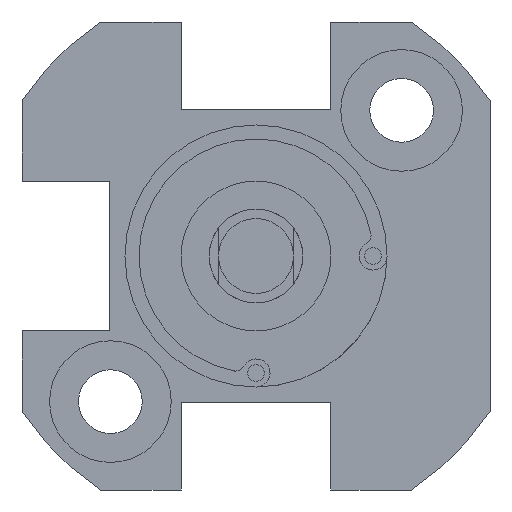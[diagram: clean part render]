
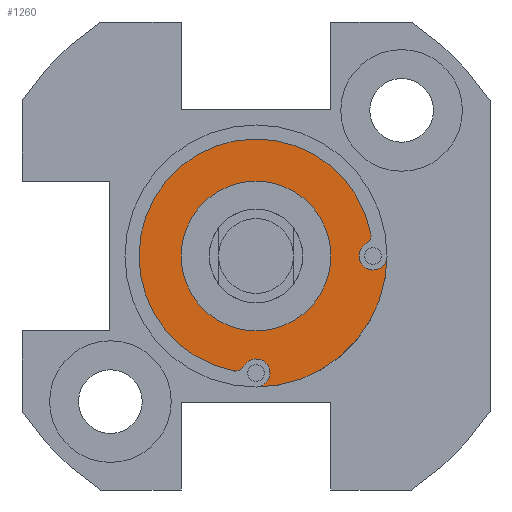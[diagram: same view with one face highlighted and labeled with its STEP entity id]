
A CAD part, front view. The second image highlights one B-rep face of the part: STEP entity #1260.
In plain terms, the highlighted planar face has unit normal (0, -1, 0).
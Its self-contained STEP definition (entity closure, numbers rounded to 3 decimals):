
#1 = CIRCLE ( 'NONE', #3276, 6.25 ) ;
#15 = VERTEX_POINT ( 'NONE', #921 ) ;
#25 = VERTEX_POINT ( 'NONE', #2179 ) ;
#27 = CARTESIAN_POINT ( 'NONE',  ( 0., -45., 4. ) ) ;
#65 = CIRCLE ( 'NONE', #2496, 0.5 ) ;
#206 = EDGE_CURVE ( 'NONE', #3112, #1467, #3271, .T. ) ;
#218 = ORIENTED_EDGE ( 'NONE', *, *, #3043, .T. ) ;
#232 = DIRECTION ( 'NONE',  ( 0., -1., 0. ) ) ;
#245 = CARTESIAN_POINT ( 'NONE',  ( 0., -45., 0. ) ) ;
#396 = CIRCLE ( 'NONE', #1677, 0.5 ) ;
#438 = EDGE_CURVE ( 'NONE', #2299, #25, #396, .T. ) ;
#440 = EDGE_LOOP ( 'NONE', ( #1538, #880, #3000, #1621, #218, #610, #2851, #734 ) ) ;
#610 = ORIENTED_EDGE ( 'NONE', *, *, #438, .T. ) ;
#711 = DIRECTION ( 'NONE',  ( 0., 1., 0. ) ) ;
#718 = DIRECTION ( 'NONE',  ( 0., 1., 0. ) ) ;
#734 = ORIENTED_EDGE ( 'NONE', *, *, #1679, .F. ) ;
#762 = FACE_OUTER_BOUND ( 'NONE', #440, .T. ) ;
#775 = CARTESIAN_POINT ( 'NONE',  ( 6.25, -45., 0. ) ) ;
#790 = AXIS2_PLACEMENT_3D ( 'NONE', #1250, #1765, #3243 ) ;
#861 = DIRECTION ( 'NONE',  ( 0., 0., -1. ) ) ;
#873 = FACE_BOUND ( 'NONE', #2510, .T. ) ;
#880 = ORIENTED_EDGE ( 'NONE', *, *, #2301, .T. ) ;
#903 = AXIS2_PLACEMENT_3D ( 'NONE', #1637, #3172, #2387 ) ;
#921 = CARTESIAN_POINT ( 'NONE',  ( -1.189, -45., -6.136 ) ) ;
#994 = DIRECTION ( 'NONE',  ( 0., 0., 1. ) ) ;
#1010 = CARTESIAN_POINT ( 'NONE',  ( 6.25, -45., 0. ) ) ;
#1065 = EDGE_CURVE ( 'NONE', #1467, #3112, #1241, .T. ) ;
#1115 = PLANE ( 'NONE',  #903 ) ;
#1116 = CIRCLE ( 'NONE', #1128, 0.5 ) ;
#1123 = CARTESIAN_POINT ( 'NONE',  ( 5.645, -45., 1.094 ) ) ;
#1128 = AXIS2_PLACEMENT_3D ( 'NONE', #1123, #2607, #2362 ) ;
#1134 = VERTEX_POINT ( 'NONE', #1585 ) ;
#1140 = VERTEX_POINT ( 'NONE', #3093 ) ;
#1152 = CIRCLE ( 'NONE', #2875, 0.75 ) ;
#1194 = CIRCLE ( 'NONE', #1295, 7. ) ;
#1237 = CARTESIAN_POINT ( 'NONE',  ( 6.136, -45., 1.189 ) ) ;
#1241 = CIRCLE ( 'NONE', #3252, 4. ) ;
#1250 = CARTESIAN_POINT ( 'NONE',  ( 0., -45., -6.25 ) ) ;
#1256 = AXIS2_PLACEMENT_3D ( 'NONE', #1010, #1272, #2039 ) ;
#1260 = ADVANCED_FACE ( 'NONE', ( #762, #873 ), #1115, .T. ) ;
#1272 = DIRECTION ( 'NONE',  ( 0., 1., 0. ) ) ;
#1295 = AXIS2_PLACEMENT_3D ( 'NONE', #1410, #3161, #1675 ) ;
#1297 = EDGE_CURVE ( 'NONE', #1134, #2481, #2833, .T. ) ;
#1312 = CARTESIAN_POINT ( 'NONE',  ( 0., -45., -4. ) ) ;
#1371 = ORIENTED_EDGE ( 'NONE', *, *, #1065, .T. ) ;
#1376 = VERTEX_POINT ( 'NONE', #1237 ) ;
#1396 = EDGE_CURVE ( 'NONE', #15, #1376, #1, .T. ) ;
#1410 = CARTESIAN_POINT ( 'NONE',  ( 0., -45., 0. ) ) ;
#1467 = VERTEX_POINT ( 'NONE', #1312 ) ;
#1538 = ORIENTED_EDGE ( 'NONE', *, *, #1297, .T. ) ;
#1585 = CARTESIAN_POINT ( 'NONE',  ( 7., -45., 0. ) ) ;
#1602 = EDGE_CURVE ( 'NONE', #2449, #1376, #1116, .T. ) ;
#1621 = ORIENTED_EDGE ( 'NONE', *, *, #1396, .F. ) ;
#1637 = CARTESIAN_POINT ( 'NONE',  ( 0., -45., 0. ) ) ;
#1650 = ORIENTED_EDGE ( 'NONE', *, *, #206, .T. ) ;
#1654 = CARTESIAN_POINT ( 'NONE',  ( -1.094, -45., -5.645 ) ) ;
#1675 = DIRECTION ( 'NONE',  ( 0., 0., 1. ) ) ;
#1677 = AXIS2_PLACEMENT_3D ( 'NONE', #1654, #2891, #861 ) ;
#1679 = EDGE_CURVE ( 'NONE', #1134, #1140, #1194, .T. ) ;
#1765 = DIRECTION ( 'NONE',  ( 0., 1., 0. ) ) ;
#1770 = DIRECTION ( 'NONE',  ( 0., 0., 1. ) ) ;
#1774 = CARTESIAN_POINT ( 'NONE',  ( -1.094, -45., -5.645 ) ) ;
#1855 = DIRECTION ( 'NONE',  ( 0., 1., 0. ) ) ;
#2039 = DIRECTION ( 'NONE',  ( 0., 0., 1. ) ) ;
#2179 = CARTESIAN_POINT ( 'NONE',  ( -0.656, -45., -5.887 ) ) ;
#2225 = CIRCLE ( 'NONE', #790, 0.75 ) ;
#2254 = CARTESIAN_POINT ( 'NONE',  ( 0., -45., 0. ) ) ;
#2291 = AXIS2_PLACEMENT_3D ( 'NONE', #2254, #718, #994 ) ;
#2299 = VERTEX_POINT ( 'NONE', #2569 ) ;
#2301 = EDGE_CURVE ( 'NONE', #2481, #2449, #1152, .T. ) ;
#2362 = DIRECTION ( 'NONE',  ( 0., 0., -1. ) ) ;
#2387 = DIRECTION ( 'NONE',  ( 0., 0., 1. ) ) ;
#2449 = VERTEX_POINT ( 'NONE', #2835 ) ;
#2481 = VERTEX_POINT ( 'NONE', #3077 ) ;
#2493 = DIRECTION ( 'NONE',  ( 0., 0., 1. ) ) ;
#2496 = AXIS2_PLACEMENT_3D ( 'NONE', #1774, #232, #3298 ) ;
#2510 = EDGE_LOOP ( 'NONE', ( #1371, #1650 ) ) ;
#2569 = CARTESIAN_POINT ( 'NONE',  ( -1.094, -45., -6.145 ) ) ;
#2587 = CARTESIAN_POINT ( 'NONE',  ( 0., -45., 0. ) ) ;
#2607 = DIRECTION ( 'NONE',  ( 0., -1., 0. ) ) ;
#2833 = CIRCLE ( 'NONE', #1256, 0.75 ) ;
#2835 = CARTESIAN_POINT ( 'NONE',  ( 5.887, -45., 0.656 ) ) ;
#2851 = ORIENTED_EDGE ( 'NONE', *, *, #2874, .T. ) ;
#2871 = DIRECTION ( 'NONE',  ( 0., 0., 1. ) ) ;
#2874 = EDGE_CURVE ( 'NONE', #25, #1140, #2225, .T. ) ;
#2875 = AXIS2_PLACEMENT_3D ( 'NONE', #775, #3028, #1770 ) ;
#2891 = DIRECTION ( 'NONE',  ( 0., -1., 0. ) ) ;
#3000 = ORIENTED_EDGE ( 'NONE', *, *, #1602, .T. ) ;
#3028 = DIRECTION ( 'NONE',  ( 0., 1., 0. ) ) ;
#3043 = EDGE_CURVE ( 'NONE', #15, #2299, #65, .T. ) ;
#3077 = CARTESIAN_POINT ( 'NONE',  ( 6.25, -45., -0.75 ) ) ;
#3093 = CARTESIAN_POINT ( 'NONE',  ( 0., -45., -7. ) ) ;
#3112 = VERTEX_POINT ( 'NONE', #27 ) ;
#3161 = DIRECTION ( 'NONE',  ( 0., 1., 0. ) ) ;
#3172 = DIRECTION ( 'NONE',  ( 0., -1., 0. ) ) ;
#3243 = DIRECTION ( 'NONE',  ( 0., 0., 1. ) ) ;
#3252 = AXIS2_PLACEMENT_3D ( 'NONE', #2587, #1855, #2871 ) ;
#3271 = CIRCLE ( 'NONE', #2291, 4. ) ;
#3276 = AXIS2_PLACEMENT_3D ( 'NONE', #245, #711, #2493 ) ;
#3298 = DIRECTION ( 'NONE',  ( 0., 0., -1. ) ) ;
